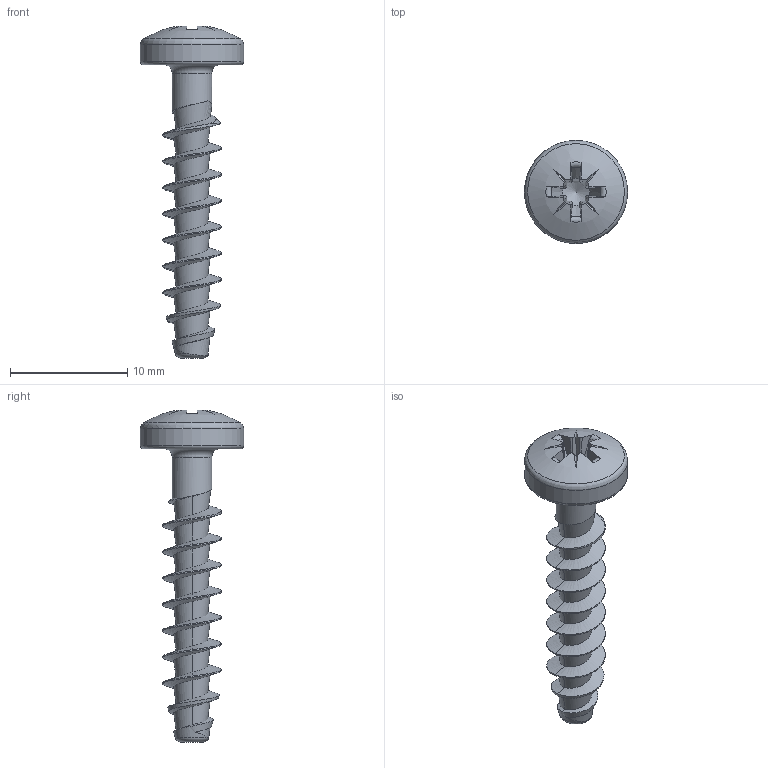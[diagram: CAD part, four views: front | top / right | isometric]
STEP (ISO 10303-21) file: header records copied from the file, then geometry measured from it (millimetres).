
FILE_DESCRIPTION(/* description */ (''),/* implementation_level */ '2;1');
FILE_NAME(/* name */ 'KN1032-Neu-STS-50x25-Z2.step',/* time_stamp */ '2019-01-09T15:31:17+01:00',/* author */ (''),/* organization */ (''),/* preprocessor_version */ 'ST-DEVELOPER v16',/* originating_system */ 'SIEMENS PLM Software NX 10.0',/* authorisation */ '');
FILE_SCHEMA (('AUTOMOTIVE_DESIGN { 1 0 10303 214 3 1 1 1 }'));
Length unit declared in the file: millimetre
Products named in the file (1): KN1032-Neu-STS-50x25-Z2
Bounding box: 8.8 x 8.8 x 28.31 mm (x, y, z)
Volume: 364.1 mm3; surface area: 615.6 mm2
Topology: 1 solids, 1 shells, 84 faces, 220 edges, 138 vertices
Faces by surface type: bspline 30, plane 26, cylinder 12, torus 8, cone 7, sphere 1
Full cylindrical faces by diameter (mm): 3.39 x1, 8.8 x1
Entity records: 4614 total; most frequent: CARTESIAN_POINT 2867, ORIENTED_EDGE 408, DIRECTION 261, EDGE_CURVE 204, VERTEX_POINT 132, AXIS2_PLACEMENT_3D 101, B_SPLINE_CURVE_WITH_KNOTS 98, EDGE_LOOP 91
